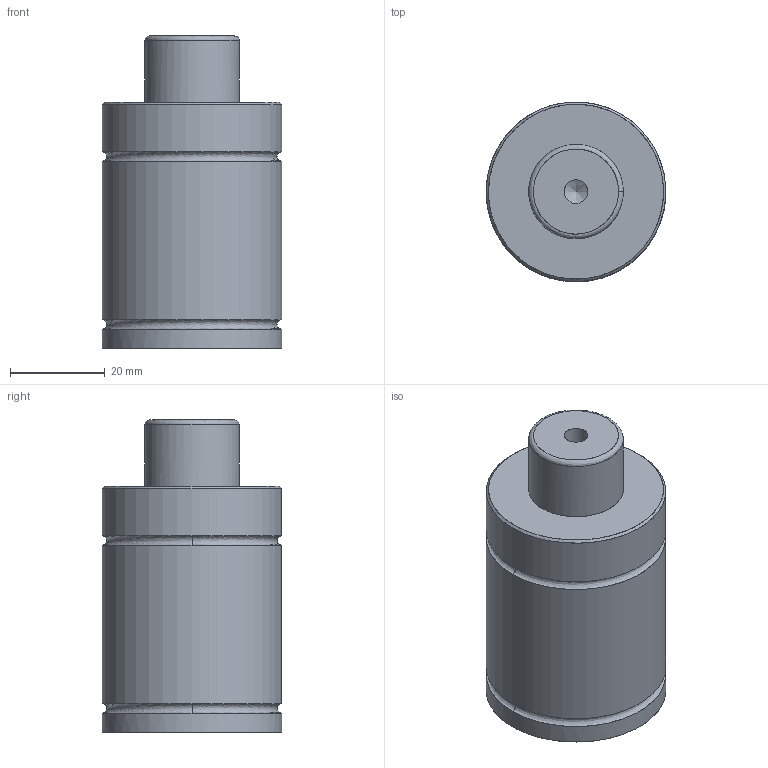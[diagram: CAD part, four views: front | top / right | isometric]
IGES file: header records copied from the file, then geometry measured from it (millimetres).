
Start section: VISI Layer Mapping Iges    VISI  0      LAYER_EMPTY  1      wwww  7      W_PD700  8      S_PD700  10     W_PD1000  11     S_PD1000  13     W_PD2000  14     S_PD2000  16     W_PD3000  17     S_PD3000  19     W_PD4000  20     S_PD4000  22     W_PD7000  23     S_PD7000  28     W_350  29     MS-350  30     MC-350  31     MP-350  32     MB-350  33     MH-350  34     MK-350  35     MPL-350  39     W_500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
Global section: file name: E:\だ錶臢\だ錶臢3D\SYLINDER\PT Series\PT500\PT500\PT500-13.igs; native system: VISI 16.0; preprocessor: 2.0; author: 11; organization: 0; date: 500.; units: mil
Bounding box: 38 x 38 x 66 mm (x, y, z)
Surface area: 10399.6 mm2 (no closed solid volume)
Topology: 0 solids, 0 shells, 19 faces, 221 edges, 196 vertices
Faces by surface type: bspline 19
